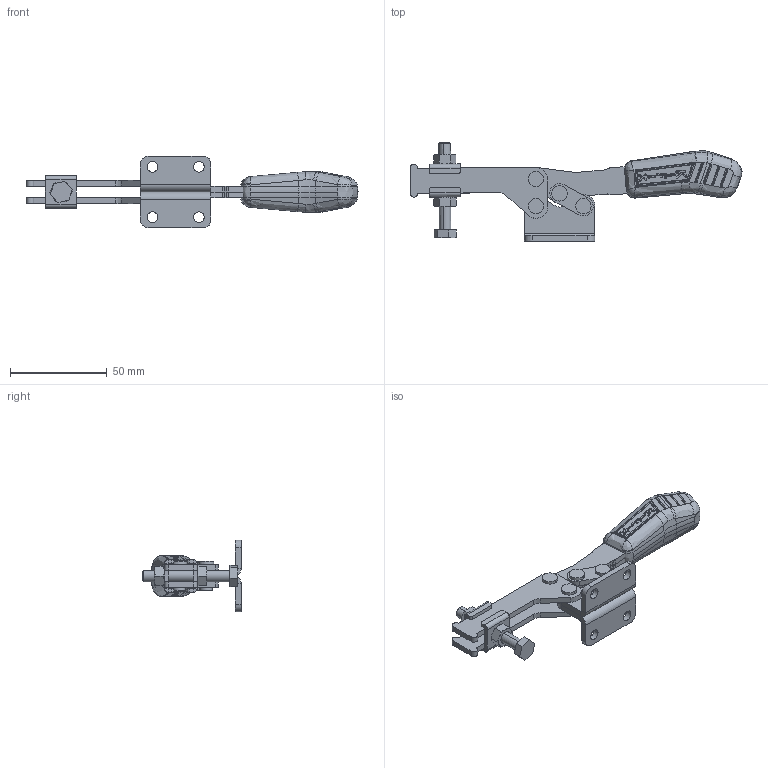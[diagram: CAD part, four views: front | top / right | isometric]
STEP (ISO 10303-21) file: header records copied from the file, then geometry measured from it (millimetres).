
FILE_DESCRIPTION (( 'STEP AP203' ), '1' );
FILE_NAME ('KF-511 D.STEP', '2014-08-18T12:23:52', ( 'Ricardo' ), ( '' ), 'SwSTEP 2.0', 'SolidWorks 2013', '' );
FILE_SCHEMA (( 'CONFIG_CONTROL_DESIGN' ));
Length unit declared in the file: millimetre
Products named in the file (11): 11.50001; 02.12032_Direita; 07.60005; 02.12032_Esquerda; KF-511 D; 01.10038; 03.13017; 08.10007; 06.50023; 14.10004; 12.50002
Assembly tree (18 placements, depth 2):
  KF-511 D
    02.12032_Direita
    02.12032_Esquerda
    01.10038  x2
    03.13017  x2
    08.10007  x2
    06.50023  x4
    14.10004  x2
    12.50002
    11.50001  x2
    07.60005
Bounding box: 171.55 x 50.84 x 37 mm (x, y, z)
Volume: 43641.3 mm3; surface area: 31099.5 mm2
Topology: 18 solids, 18 shells, 946 faces, 2388 edges, 1493 vertices
Faces by surface type: cylinder 312, plane 269, bspline 269, sphere 50, cone 44, torus 2
Entity records: 32427 total; most frequent: CARTESIAN_POINT 14091, ORIENTED_EDGE 4102, DIRECTION 2784, EDGE_CURVE 2051, VERTEX_POINT 1288, AXIS2_PLACEMENT_3D 1033, EDGE_LOOP 857, ADVANCED_FACE 804
